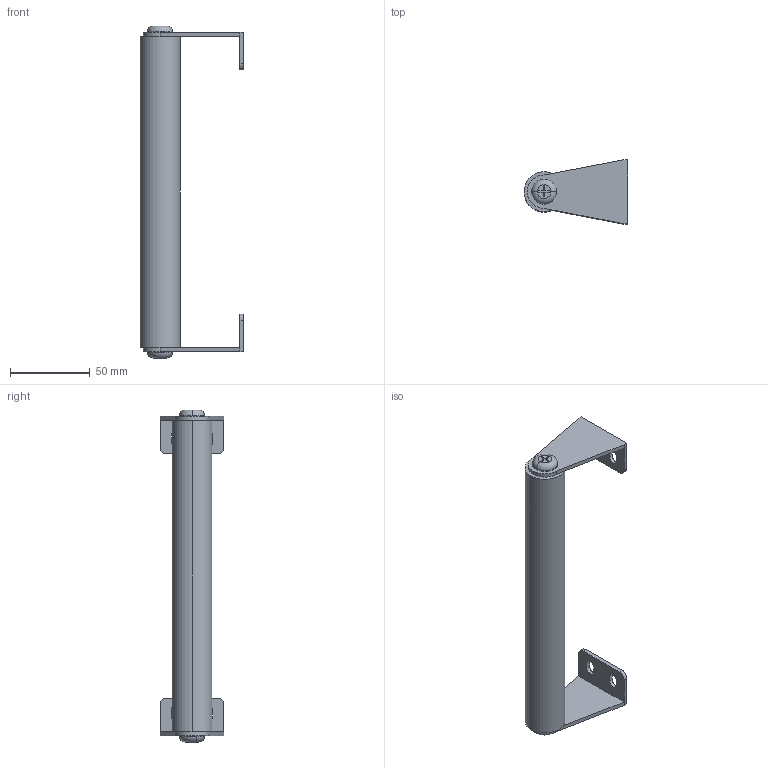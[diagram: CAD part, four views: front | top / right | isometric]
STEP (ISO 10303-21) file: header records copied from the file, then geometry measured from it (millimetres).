
FILE_DESCRIPTION (( 'STEP AP203' ), '1' );
FILE_NAME ('E01-52001.STEP', '2024-10-29T02:50:54', ( '' ), ( '' ), 'SwSTEP 2.0', 'SolidWorks 2021', '' );
FILE_SCHEMA (( 'CONFIG_CONTROL_DESIGN' ));
Length unit declared in the file: millimetre
Products named in the file (5): E01-52001-座; E01-52001-螺絲; E01-52001-軸; E01-52001; E01-52001-把
Assembly tree (6 placements, depth 2):
  E01-52001
    E01-52001-座  x2
    E01-52001-把
    E01-52001-軸
    E01-52001-螺絲  x2
Bounding box: 65 x 40 x 208 mm (x, y, z)
Volume: 109289.9 mm3; surface area: 43092.5 mm2
Topology: 6 solids, 6 shells, 108 faces, 262 edges, 172 vertices
Faces by surface type: plane 64, cylinder 40, torus 4
Entity records: 2395 total; most frequent: DIRECTION 342, CARTESIAN_POINT 313, ORIENTED_EDGE 292, EDGE_CURVE 146, AXIS2_PLACEMENT_3D 125, VERTEX_POINT 96, VECTOR 92, LINE 92
